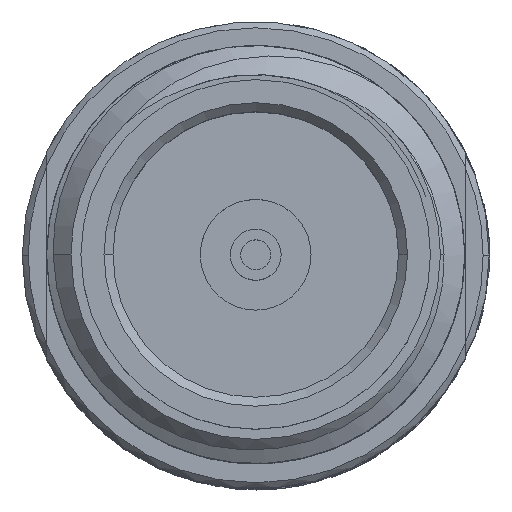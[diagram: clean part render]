
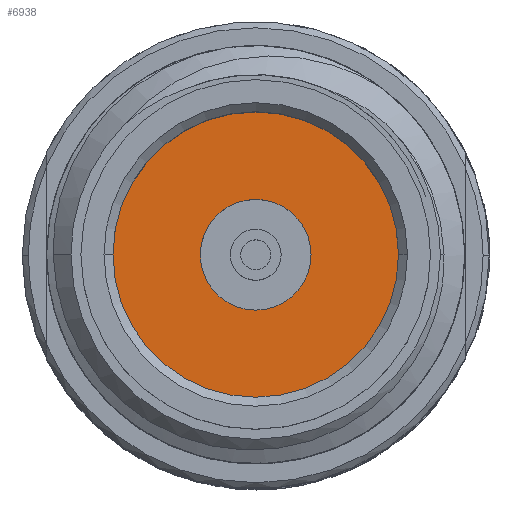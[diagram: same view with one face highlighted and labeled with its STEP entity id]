
A CAD part, top view. The second image highlights one B-rep face of the part: STEP entity #6938.
In plain terms, the highlighted planar face has unit normal (0, 0, 1).
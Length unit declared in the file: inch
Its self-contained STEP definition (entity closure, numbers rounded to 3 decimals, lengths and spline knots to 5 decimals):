
#113 = CARTESIAN_POINT ( 'NONE',  ( 0.03642, 0., 0. ) ) ;
#163 = VERTEX_POINT ( 'NONE', #113 ) ;
#310 = EDGE_CURVE ( 'NONE', #163, #1909, #10365, .T. ) ;
#505 = DIRECTION ( 'NONE',  ( 1., 0., 0. ) ) ;
#912 = EDGE_LOOP ( 'NONE', ( #7506, #7303 ) ) ;
#1117 = ORIENTED_EDGE ( 'NONE', *, *, #11679, .T. ) ;
#1304 = DIRECTION ( 'NONE',  ( 1., 0., 0. ) ) ;
#1412 = DIRECTION ( 'NONE',  ( 0., 0., 1. ) ) ;
#1751 = EDGE_CURVE ( 'NONE', #1909, #163, #6782, .T. ) ;
#1909 = VERTEX_POINT ( 'NONE', #10593 ) ;
#2254 = AXIS2_PLACEMENT_3D ( 'NONE', #6308, #3090, #3302 ) ;
#2677 = DIRECTION ( 'NONE',  ( 0., 0., 1. ) ) ;
#3090 = DIRECTION ( 'NONE',  ( 0., 0., 1. ) ) ;
#3302 = DIRECTION ( 'NONE',  ( 1., 0., 0. ) ) ;
#3517 = DIRECTION ( 'NONE',  ( -1., 0., 0. ) ) ;
#3966 = AXIS2_PLACEMENT_3D ( 'NONE', #7782, #11956, #3517 ) ;
#4360 = AXIS2_PLACEMENT_3D ( 'NONE', #10587, #8408, #1304 ) ;
#4930 = EDGE_CURVE ( 'NONE', #7235, #10853, #11073, .T. ) ;
#6308 = CARTESIAN_POINT ( 'NONE',  ( 0., 0., 0. ) ) ;
#6782 = CIRCLE ( 'NONE', #12864, 0.03642 ) ;
#6938 = ADVANCED_FACE ( 'NONE', ( #10040, #13060 ), #13263, .F. ) ;
#7007 = CARTESIAN_POINT ( 'NONE',  ( 0., 0., 0. ) ) ;
#7235 = VERTEX_POINT ( 'NONE', #13097 ) ;
#7303 = ORIENTED_EDGE ( 'NONE', *, *, #1751, .F. ) ;
#7506 = ORIENTED_EDGE ( 'NONE', *, *, #310, .F. ) ;
#7773 = CARTESIAN_POINT ( 'NONE',  ( 0., 0., 0. ) ) ;
#7782 = CARTESIAN_POINT ( 'NONE',  ( 0., 0.0939, 0. ) ) ;
#7912 = ORIENTED_EDGE ( 'NONE', *, *, #4930, .T. ) ;
#8064 = CIRCLE ( 'NONE', #2254, 0.0939 ) ;
#8408 = DIRECTION ( 'NONE',  ( 0., 0., 1. ) ) ;
#10040 = FACE_OUTER_BOUND ( 'NONE', #13485, .T. ) ;
#10258 = DIRECTION ( 'NONE',  ( 1., 0., 0. ) ) ;
#10365 = CIRCLE ( 'NONE', #11723, 0.03642 ) ;
#10587 = CARTESIAN_POINT ( 'NONE',  ( 0., 0., 0. ) ) ;
#10593 = CARTESIAN_POINT ( 'NONE',  ( -0.03642, 0., 0. ) ) ;
#10853 = VERTEX_POINT ( 'NONE', #10938 ) ;
#10938 = CARTESIAN_POINT ( 'NONE',  ( -0.0939, 0., 0. ) ) ;
#11073 = CIRCLE ( 'NONE', #4360, 0.0939 ) ;
#11679 = EDGE_CURVE ( 'NONE', #10853, #7235, #8064, .T. ) ;
#11723 = AXIS2_PLACEMENT_3D ( 'NONE', #7007, #2677, #10258 ) ;
#11956 = DIRECTION ( 'NONE',  ( 0., 0., -1. ) ) ;
#12864 = AXIS2_PLACEMENT_3D ( 'NONE', #7773, #1412, #505 ) ;
#13060 = FACE_BOUND ( 'NONE', #912, .T. ) ;
#13097 = CARTESIAN_POINT ( 'NONE',  ( 0.0939, 0., 0. ) ) ;
#13263 = PLANE ( 'NONE',  #3966 ) ;
#13485 = EDGE_LOOP ( 'NONE', ( #7912, #1117 ) ) ;
